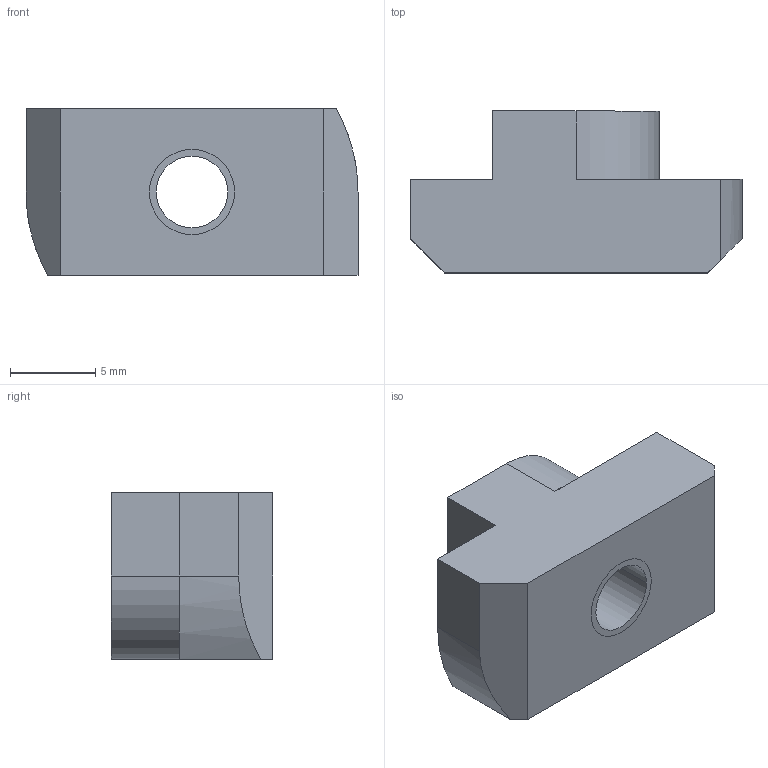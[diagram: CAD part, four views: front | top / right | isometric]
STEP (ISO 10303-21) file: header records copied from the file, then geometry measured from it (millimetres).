
FILE_DESCRIPTION((''),'2;1');
FILE_NAME('DAM0510','2002-12-27T',('Lipro doo'),('Lipro d.o.o.'),'PRO/ENGINEER BY PARAMETRIC TECHNOLOGY CORPORATION, 2001150','PRO/ENGINEER BY PARAMETRIC TECHNOLOGY CORPORATION, 2001150','');
FILE_SCHEMA(('CONFIG_CONTROL_DESIGN'));
Length unit declared in the file: millimetre
Products named in the file (1): DAM0510
Bounding box: 19.5 x 9.5 x 9.8 mm (x, y, z)
Volume: 1205.4 mm3; surface area: 1040.2 mm2
Topology: 1 solids, 2 shells, 22 faces, 58 edges, 38 vertices
Faces by surface type: plane 12, cylinder 8, cone 2
Entity records: 734 total; most frequent: CARTESIAN_POINT 127, DIRECTION 118, ORIENTED_EDGE 112, EDGE_CURVE 58, VECTOR 40, LINE 40, AXIS2_PLACEMENT_3D 39, VERTEX_POINT 38
